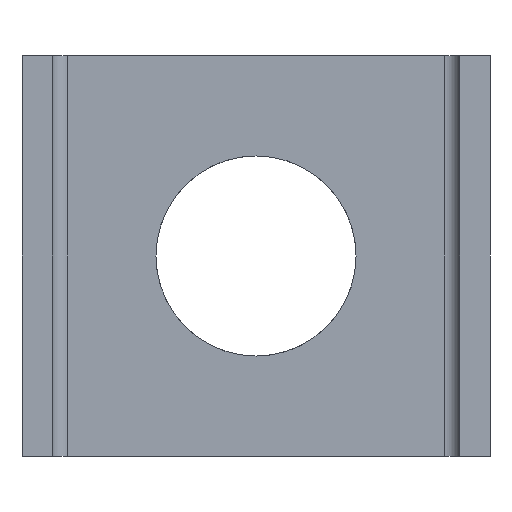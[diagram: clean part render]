
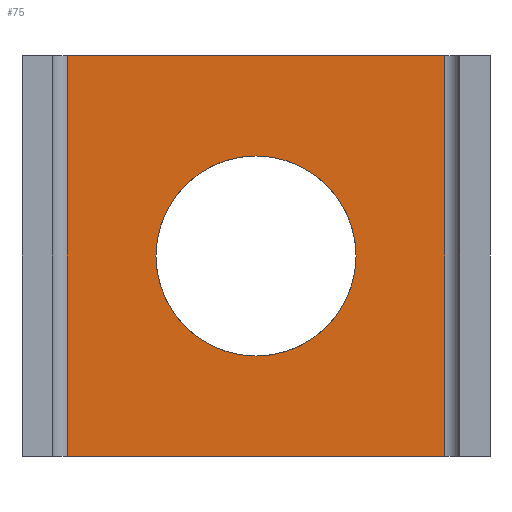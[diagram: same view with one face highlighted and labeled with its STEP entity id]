
A CAD part, front view. The second image highlights one B-rep face of the part: STEP entity #75.
In plain terms, the highlighted planar face has unit normal (0, -1, 0).
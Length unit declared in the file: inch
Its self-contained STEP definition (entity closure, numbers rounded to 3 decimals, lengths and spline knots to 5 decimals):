
#75=ADVANCED_FACE('',(#146,#147),#148,.T.);
#146=FACE_BOUND('',#266,.T.);
#147=FACE_OUTER_BOUND('',#267,.T.);
#148=PLANE('',#268);
#266=EDGE_LOOP('',(#399,#400,#401,#402));
#267=EDGE_LOOP('',(#403,#404,#405,#406));
#268=AXIS2_PLACEMENT_3D('',#407,#408,#409);
#399=ORIENTED_EDGE('',*,*,#434,.T.);
#400=ORIENTED_EDGE('',*,*,#482,.T.);
#401=ORIENTED_EDGE('',*,*,#425,.T.);
#402=ORIENTED_EDGE('',*,*,#430,.T.);
#403=ORIENTED_EDGE('',*,*,#477,.T.);
#404=ORIENTED_EDGE('',*,*,#453,.F.);
#405=ORIENTED_EDGE('',*,*,#479,.F.);
#406=ORIENTED_EDGE('',*,*,#421,.T.);
#407=CARTESIAN_POINT('',(0.88923,0.34935,0.0));
#408=DIRECTION('',(0.0,-1.0,0.0));
#409=DIRECTION('',(1.0,0.0,-0.0));
#421=EDGE_CURVE('',#490,#488,#491,.T.);
#425=EDGE_CURVE('',#496,#497,#498,.T.);
#430=EDGE_CURVE('',#497,#505,#506,.T.);
#434=EDGE_CURVE('',#505,#511,#512,.T.);
#453=EDGE_CURVE('',#540,#538,#542,.T.);
#477=EDGE_CURVE('',#488,#538,#576,.T.);
#479=EDGE_CURVE('',#490,#540,#578,.T.);
#482=EDGE_CURVE('',#511,#496,#581,.T.);
#488=VERTEX_POINT('',#587);
#490=VERTEX_POINT('',#592);
#491=LINE('',#593,#594);
#496=VERTEX_POINT('',#603);
#497=VERTEX_POINT('',#604);
#498=B_SPLINE_CURVE_WITH_KNOTS('',3,(#605,#606,#607,#608),.UNSPECIFIED.,.F.,.F.,(4,4),(0.0,1.0),.UNSPECIFIED.);
#505=VERTEX_POINT('',#620);
#506=B_SPLINE_CURVE_WITH_KNOTS('',3,(#621,#622,#623,#624),.UNSPECIFIED.,.F.,.F.,(4,4),(0.0,1.0),.UNSPECIFIED.);
#511=VERTEX_POINT('',#633);
#512=B_SPLINE_CURVE_WITH_KNOTS('',3,(#634,#635,#636,#637),.UNSPECIFIED.,.F.,.F.,(4,4),(0.0,1.0),.UNSPECIFIED.);
#538=VERTEX_POINT('',#677);
#540=VERTEX_POINT('',#682);
#542=LINE('',#687,#688);
#576=LINE('',#749,#750);
#578=LINE('',#752,#753);
#581=B_SPLINE_CURVE_WITH_KNOTS('',3,(#757,#758,#759,#760),.UNSPECIFIED.,.F.,.F.,(4,4),(0.0,1.0),.UNSPECIFIED.);
#587=CARTESIAN_POINT('',(1.65615,0.34935,1.625));
#592=CARTESIAN_POINT('',(1.65615,0.34935,0.0));
#593=CARTESIAN_POINT('',(1.65615,0.34935,0.0));
#594=VECTOR('',#764,1.0);
#603=CARTESIAN_POINT('',(1.29548,0.34935,0.8125));
#604=CARTESIAN_POINT('',(0.88923,0.34935,0.40625));
#605=CARTESIAN_POINT('',(1.29548,0.34935,0.8125));
#606=CARTESIAN_POINT('',(1.29548,0.34935,0.58813));
#607=CARTESIAN_POINT('',(1.1136,0.34935,0.40625));
#608=CARTESIAN_POINT('',(0.88923,0.34935,0.40625));
#620=CARTESIAN_POINT('',(0.48298,0.34935,0.8125));
#621=CARTESIAN_POINT('',(0.88923,0.34935,0.40625));
#622=CARTESIAN_POINT('',(0.66487,0.34935,0.40625));
#623=CARTESIAN_POINT('',(0.48298,0.34935,0.58813));
#624=CARTESIAN_POINT('',(0.48298,0.34935,0.8125));
#633=CARTESIAN_POINT('',(0.88923,0.34935,1.21875));
#634=CARTESIAN_POINT('',(0.48298,0.34935,0.8125));
#635=CARTESIAN_POINT('',(0.48298,0.34935,1.03687));
#636=CARTESIAN_POINT('',(0.66487,0.34935,1.21875));
#637=CARTESIAN_POINT('',(0.88923,0.34935,1.21875));
#677=CARTESIAN_POINT('',(0.12231,0.34935,1.625));
#682=CARTESIAN_POINT('',(0.12231,0.34935,0.0));
#687=CARTESIAN_POINT('',(0.12231,0.34935,0.0));
#688=VECTOR('',#780,1.0);
#749=CARTESIAN_POINT('',(1.65615,0.34935,1.625));
#750=VECTOR('',#793,1.0);
#752=CARTESIAN_POINT('',(1.65615,0.34935,0.0));
#753=VECTOR('',#794,1.0);
#757=CARTESIAN_POINT('',(0.88923,0.34935,1.21875));
#758=CARTESIAN_POINT('',(1.1136,0.34935,1.21875));
#759=CARTESIAN_POINT('',(1.29548,0.34935,1.03687));
#760=CARTESIAN_POINT('',(1.29548,0.34935,0.8125));
#764=DIRECTION('',(0.0,0.0,1.0));
#780=DIRECTION('',(0.0,0.0,1.0));
#793=DIRECTION('',(-1.0,0.0,0.0));
#794=DIRECTION('',(-1.0,0.0,0.0));
